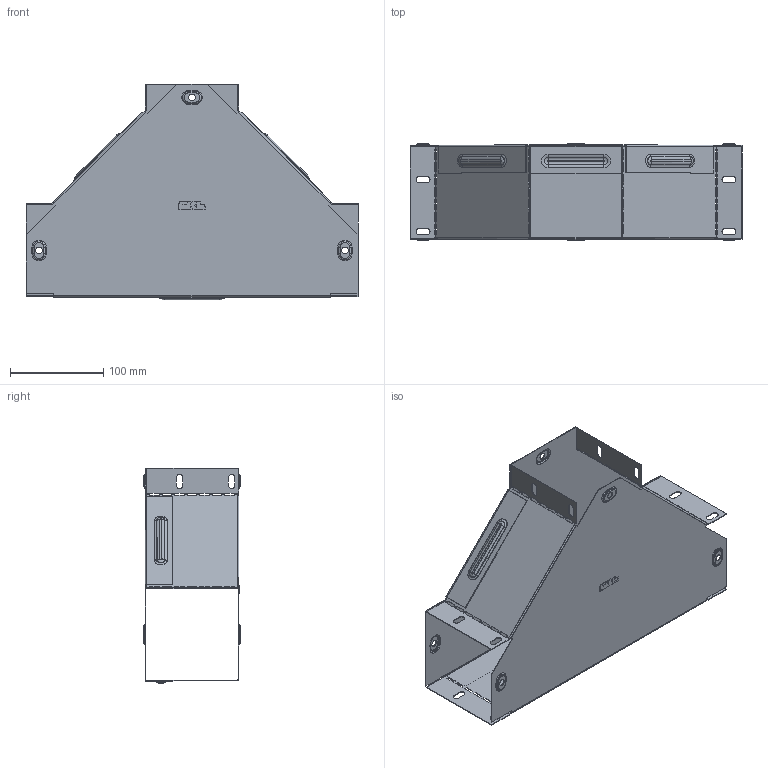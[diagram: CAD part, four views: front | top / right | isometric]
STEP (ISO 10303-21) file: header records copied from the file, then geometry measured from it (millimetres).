
FILE_DESCRIPTION (( 'STEP AP214' ), '1' );
FILE_NAME ('t10010008_捘.STEP', '2019-06-10T08:09:00', ( '砐錪賧瘔蠈錪 Windows' ), ( '' ), 'SwSTEP 2.0', 'SolidWorks 2018', '' );
FILE_SCHEMA (( 'AUTOMOTIVE_DESIGN' ));
Length unit declared in the file: millimetre
Products named in the file (1): t10010008_捘
Bounding box: 356.4 x 103.8 x 231 mm (x, y, z)
Volume: 162149.7 mm3; surface area: 409270 mm2
Topology: 2 solids, 2 shells, 780 faces, 2280 edges, 1484 vertices
Faces by surface type: plane 442, cylinder 224, torus 96, bspline 18
Entity records: 26969 total; most frequent: CARTESIAN_POINT 5625, ORIENTED_EDGE 4560, DIRECTION 4362, EDGE_CURVE 2280, VECTOR 1652, LINE 1652, VERTEX_POINT 1484, AXIS2_PLACEMENT_3D 1355
